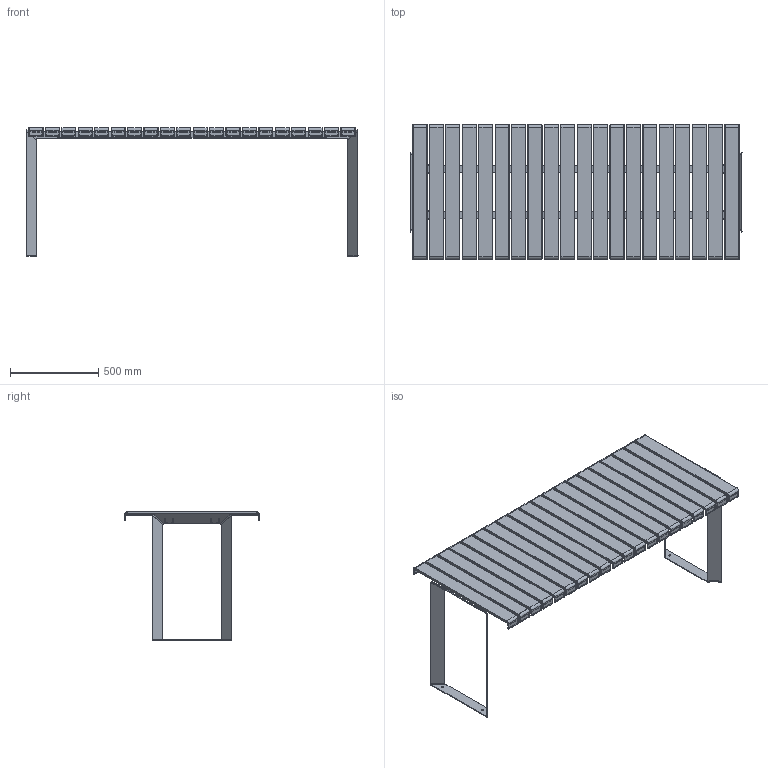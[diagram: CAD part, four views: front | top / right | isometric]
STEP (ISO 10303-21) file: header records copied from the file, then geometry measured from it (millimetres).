
FILE_DESCRIPTION(('STEP AP203'),'1');
FILE_NAME('UT80TV2000AXX.stp','2026-04-13T14:05:05',(' '),(' '),'Spatial InterOp 3D',' ',' ');
FILE_SCHEMA(('CONFIG_CONTROL_DESIGN'));
Length unit declared in the file: millimetre
Products named in the file (1): UT80TV2000AXX
Bounding box: 1880.19 x 760 x 730 mm (x, y, z)
Surface area: 4525608.8 mm2 (no closed solid volume)
Topology: 0 solids, 218 shells, 3391 faces, 9592 edges, 6175 vertices
Faces by surface type: cylinder 1481, plane 1012, torus 766, bspline 132
Full cylindrical faces by diameter (mm): 3 x78, 6.8 x8, 8 x19, 10 x4, 13 x8, 13.5 x36, 17.8 x8
Entity records: 116952 total; most frequent: CARTESIAN_POINT 30340, DIRECTION 20026, ORIENTED_EDGE 15046, EDGE_CURVE 9179, AXIS2_PLACEMENT_3D 7985, VERTEX_POINT 6159, CIRCLE 4549, FACE_BOUND 4141
